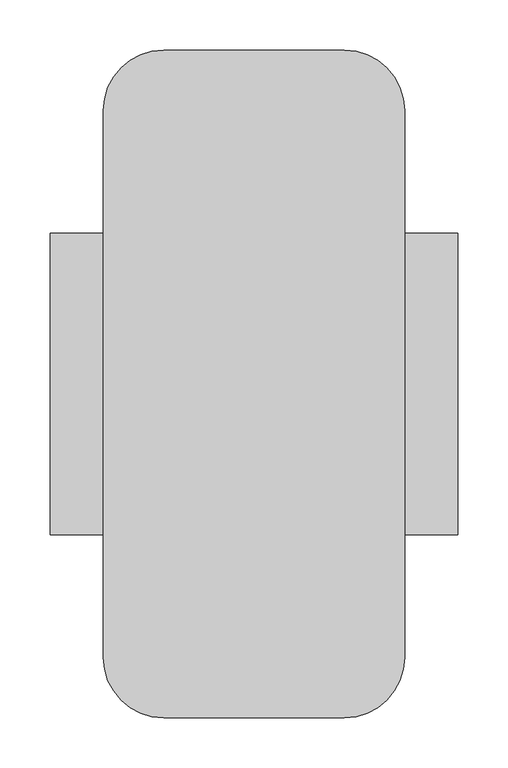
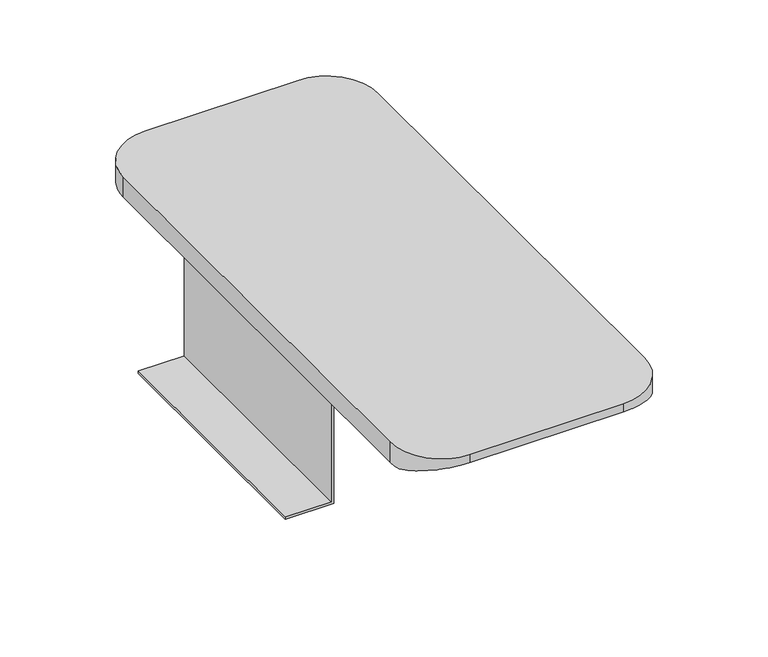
"""IFC4 building model written with IfcOpenShell, lengths in millimetres: furniture geometry, Nooa - table between seats : Nooa - table between seats."""

from ifc_helpers import new_model, si_unit, frame, origin, place, context, project, spatial, polyline, circle_curve, ellipse_curve, outline, extrude, source, transform, mapped, element, save
from ifc_brep_helpers import plane_surface, cylinder_surface, advanced_brep


def furniture_9ede3382(model_context):
    return source(origin(), model_context, "Body", "SolidModel", [
        extrude(outline(polyline([(375.0, 226.0), (372.0, 226.0), (372.0, 296.0), (248.0, 296.0), (248.0, 353.0), (251.0, 353.0), (251.0, 299.0), (376.0, 299.0), (375.0, 226.0)])), frame((0.0, 182.5000153, 0.0), z_axis=(0.0, 1.0, 0.0), x_axis=(0.0, 0.0, 1.0)), (0.0, 0.0, 1.0), 300.0),
        extrude(outline(polyline([(372.0, 74.0), (375.0, 74.0), (376.0, 1.0), (251.0, 1.0), (251.0, -53.0), (248.0, -53.0), (248.0, 4.0), (372.0, 4.0), (372.0, 74.0)])), frame((0.0, 182.5000153, 0.0), z_axis=(0.0, 1.0, 0.0), x_axis=(0.0, 0.0, 1.0)), (0.0, 0.0, 1.0), 300.0),
        advanced_brep(
        [(240.0605153, 3.05e-05, 390.0), (240.0605153, 3.05e-05, 400.0), (59.9394847, 3.05e-05, 400.0), (59.9394847, 3.05e-05, 390.0), (1.9052498, 45.0, 375.0), (298.0947502, 45.0, 375.0), (0.0, 60.0, 400.0), (0.0, 60.0, 375.0), (300.0, 60.0, 375.0), (300.0, 60.0, 400.0), (300.0, 605.0, 400.0), (240.0, 665.0, 400.0), (60.0, 665.0, 400.0), (0.0, 605.0, 400.0), (300.0, 605.0, 375.0), (1.9052498, 620.0, 375.0), (298.0947502, 620.0, 375.0), (0.0, 605.0, 375.0), (60.0, 665.0, 390.0), (240.0, 665.0, 390.0)],
        [
            (0, 1),
            (1, 2),
            (2, 3),
            (3, 0),
            (4, 5),
            (5, 0, ellipse_curve(frame((240.0, 60.0, 369.9999966), z_axis=(0.0, -0.3162279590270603, -0.9486832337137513), x_axis=(0.0, 0.9486832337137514, -0.3162279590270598)), 63.2455575, 60.0)),
            (3, 4, ellipse_curve(frame((60.0, 60.0, 369.9999966), z_axis=(0.0, -0.3162279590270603, -0.9486832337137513), x_axis=(0.0, 0.9486832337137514, -0.3162279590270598)), 63.2455575, 60.0)),
            (6, 7),
            (7, 4, circle_curve(frame((60.0, 60.0, 375.0), z_axis=(0.0, 0.0, 1.0), x_axis=(0.0, -0.9999999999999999, 0.0)), 60.0)),
            (2, 6, circle_curve(frame((60.0, 60.0, 400.0), z_axis=(0.0, 0.0, -1.0), x_axis=(0.0, -0.9999999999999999, 0.0)), 60.0)),
            (5, 8, circle_curve(frame((240.0, 60.0, 375.0), z_axis=(0.0, 0.0, 1.0), x_axis=(1.0, 0.0, 0.0)), 60.0)),
            (8, 9),
            (9, 1, circle_curve(frame((240.0, 60.0, 400.0), z_axis=(0.0, 0.0, -1.0), x_axis=(1.0, 0.0, 0.0)), 60.0)),
            (9, 10),
            (10, 11, circle_curve(frame((240.0, 605.0, 400.0), z_axis=(0.0, 0.0, 1.0), x_axis=(0.0, 1.0, 0.0)), 60.0)),
            (11, 12),
            (12, 13, circle_curve(frame((60.0, 605.0, 400.0), z_axis=(0.0, 0.0, 1.0), x_axis=(-1.0, 0.0, 0.0)), 60.0)),
            (13, 6),
            (8, 14),
            (14, 10),
            (15, 16),
            (16, 14, circle_curve(frame((240.0, 605.0, 375.0), z_axis=(0.0, 0.0, -1.0), x_axis=(0.0, 1.0, 0.0)), 60.0)),
            (7, 17),
            (17, 15, circle_curve(frame((60.0, 605.0, 375.0), z_axis=(0.0, 0.0, -1.0), x_axis=(-1.0, 0.0, 0.0)), 60.0)),
            (13, 17),
            (18, 15, ellipse_curve(frame((60.0, 605.0, 370.0), z_axis=(0.0, -0.31622776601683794, 0.9486832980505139), x_axis=(0.0, -0.9486832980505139, -0.3162277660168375)), 63.2455532, 60.0)),
            (12, 18),
            (19, 18),
            (11, 19),
            (16, 19, ellipse_curve(frame((240.0, 605.0, 370.0), z_axis=(0.0, -0.31622776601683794, 0.9486832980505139), x_axis=(0.0, -0.9486832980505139, -0.3162277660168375)), 63.2455532, 60.0)),
        ],
        [
            plane_surface(frame((0.0, 3.05e-05, 400.0), z_axis=(0.0, -1.0, 0.0), x_axis=(0.0, 0.0, -1.0))),
            plane_surface(frame((0.0, 3.05e-05, 390.0), z_axis=(0.0, -0.3162279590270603, -0.9486832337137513), x_axis=(0.0, 0.9486832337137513, -0.3162279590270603))),
            cylinder_surface(frame((60.0, 60.0, 1000.0), z_axis=(0.0, 0.0, -1.0), x_axis=(0.0, -0.9999999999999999, 0.0)), 60.0),
            cylinder_surface(frame((240.0, 60.0, 1000.0), z_axis=(0.0, 0.0, -1.0), x_axis=(1.0, 0.0, 0.0)), 60.0),
            plane_surface(frame((0.0, 670.0, 400.0), z_axis=(0.0, 0.0, 1.0), x_axis=(0.0, -1.0, 0.0))),
            plane_surface(frame((300.0, 610.0, 1000.0), z_axis=(1.0, 0.0, 0.0), x_axis=(0.0, -1.0, 0.0))),
            plane_surface(frame((0.0, 90.0, 375.0), z_axis=(0.0, 0.0, -1.0), x_axis=(0.0, 1.0, 0.0))),
            plane_surface(frame((0.0, 105.0, 1000.0), z_axis=(-1.0, 0.0, 0.0), x_axis=(0.0, 1.0, 0.0))),
            cylinder_surface(frame((60.0, 605.0, 1000.0), z_axis=(0.0, 0.0, -1.0), x_axis=(-1.0, 0.0, 0.0)), 60.0),
            plane_surface(frame((60.0, 665.0, 1000.0), z_axis=(0.0, 1.0, 0.0), x_axis=(1.0, 0.0, 0.0))),
            cylinder_surface(frame((240.0, 605.0, 1000.0), z_axis=(0.0, 0.0, -1.0), x_axis=(0.0, 1.0, 0.0)), 60.0),
            plane_surface(frame((0.0, 620.0, 375.0), z_axis=(0.0, 0.31622776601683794, -0.9486832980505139), x_axis=(0.0, 0.9486832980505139, 0.31622776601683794))),
        ],
        [
            (0, [[1, 2, 3, 4]]),
            (1, [[5, 6, -4, 7]]),
            (2, [[8, 9, -7, -3, 10]]),
            (3, [[11, 12, 13, -1, -6]]),
            (4, [[14, 15, 16, 17, 18, -10, -2, -13]]),
            (5, [[19, 20, -14, -12]]),
            (6, [[21, 22, -19, -11, -5, -9, 23, 24]]),
            (7, [[25, -23, -8, -18]]),
            (8, [[26, -24, -25, -17, 27]]),
            (9, [[28, -27, -16, 29]]),
            (10, [[30, -29, -15, -20, -22]]),
            (11, [[-30, -21, -26, -28]]),
        ],
    ),
    ])


if __name__ == "__main__":
    model = new_model("IFC4")
    model_context = context("Model", 3, world=origin())
    ifc_project = project(units=[si_unit("LENGTHUNIT", "METRE", prefix="MILLI")], contexts=[model_context])
    site = spatial("IfcSite", under=ifc_project)
    building = spatial("IfcBuilding", under=site)
    placement = place(None, origin())
    furniture_shape = furniture_9ede3382(model_context)
    element("IfcFurniture", 1, ObjectType="Nooa - table between seats : Nooa - table between seats", at=placement, inside=building, context=model_context, shape_type="MappedRepresentation", body=[
        mapped(furniture_shape, transform((0.0, 0.0, 0.0), x_axis=(1.0, 0.0, 0.0), y_axis=(0.0, 1.0, 0.0), z_axis=(0.0, 0.0, 1.0))),
    ])
    save(model, "model.ifc")
